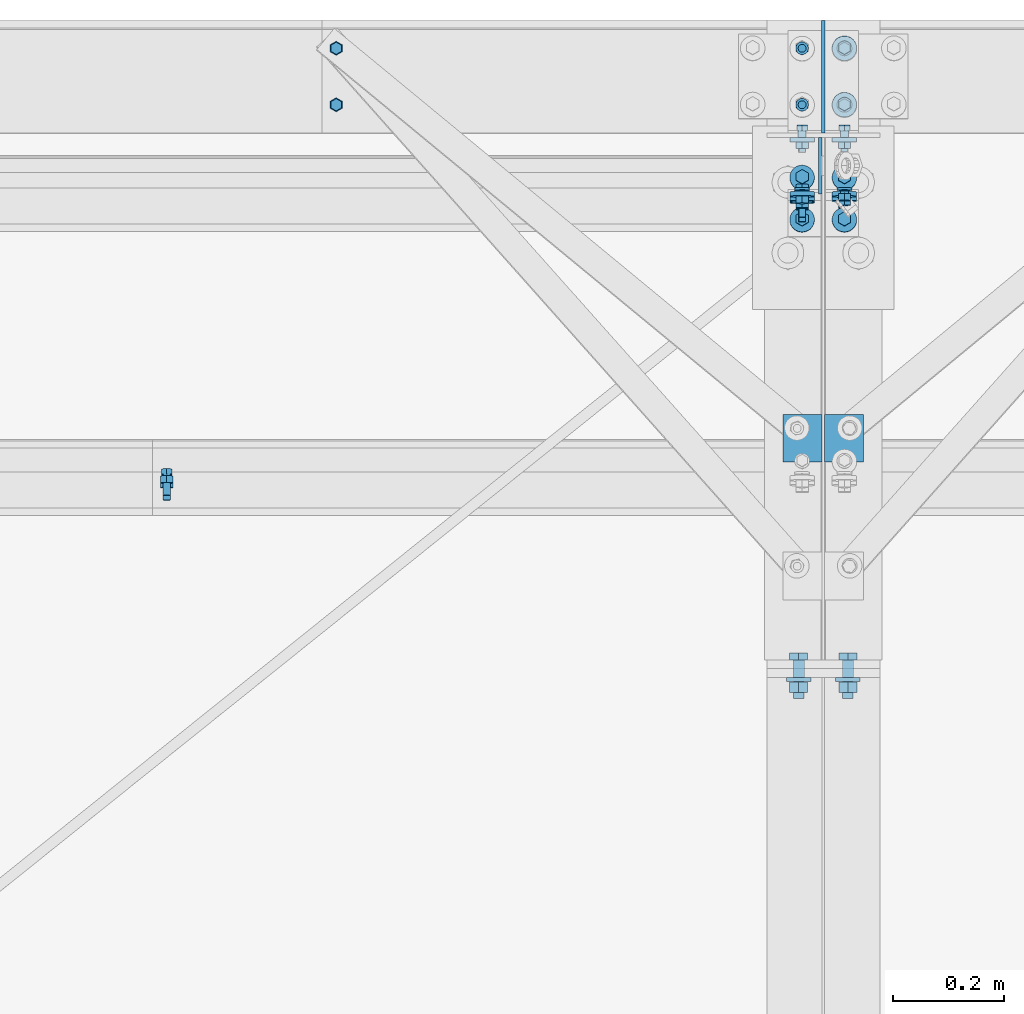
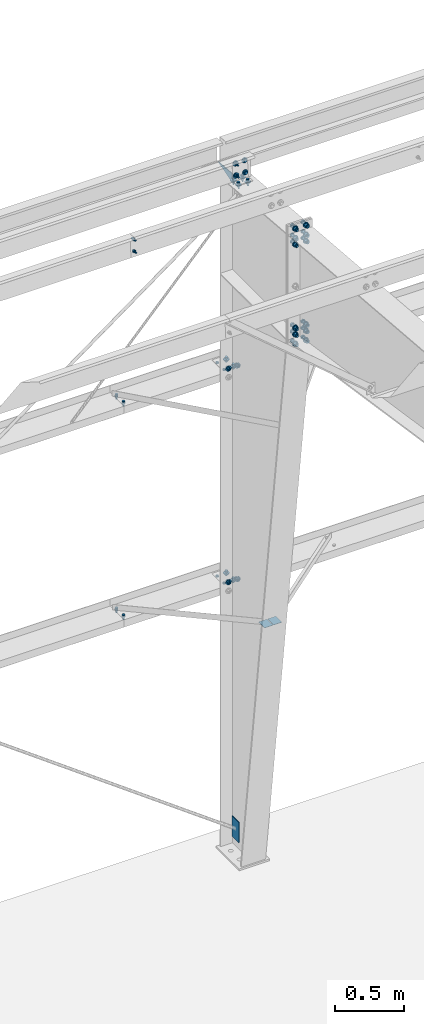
# One storey, part 114 of 185: 17 mechanical fasteners, 4 discrete accessories, 8 elements without a shape of their own.
"""IFC2X3 building model written with IfcOpenShell, lengths in millimetres."""

from ifc_helpers import new_model, si_unit, frame, origin_with_axes, origin_2d_with_axis, place, context, subcontext, project, spatial, polyline, rectangle, circle, outline, extrude, source, transform, mapped, material, type_object, element, aggregate, save


model = new_model("IFC2X3")

# Units and contexts
model_context = context("Model", 3, precision=1e-05, world=origin_with_axes())
body_context = subcontext(model_context, "Body", "Model", "MODEL_VIEW")
ifc_project = project(units=[si_unit("LENGTHUNIT", "METRE", prefix="MILLI"), si_unit("AREAUNIT", "SQUARE_METRE"), si_unit("VOLUMEUNIT", "CUBIC_METRE"), si_unit("MASSUNIT", "GRAM", prefix="KILO"), si_unit("TIMEUNIT", "SECOND"), si_unit("PLANEANGLEUNIT", "RADIAN"), si_unit("SOLIDANGLEUNIT", "STERADIAN"), si_unit("THERMODYNAMICTEMPERATUREUNIT", "DEGREE_CELSIUS"), si_unit("LUMINOUSINTENSITYUNIT", "LUMEN")], contexts=[model_context])

# Site, building, storey
site_placement = place(None, origin_with_axes())
site = spatial("IfcSite", under=ifc_project, at=site_placement, Name="Undefined", CompositionType="ELEMENT")
building_placement = place(site_placement, origin_with_axes())
building = spatial("IfcBuilding", under=site, at=building_placement, Name="Undefined", CompositionType="ELEMENT")
storey_placement = place(building_placement, origin_with_axes())
storey = spatial("IfcBuildingStorey", under=building, at=storey_placement, Name="Undefined", CompositionType="ELEMENT", Elevation=0.0)

# Assembly, mechanical fasteners
assembly_1_placement = place(storey_placement, origin_with_axes())
assembly_1 = element("IfcElementAssembly", 1, at=assembly_1_placement, inside=storey, Name="Steel Assembly", AssemblyPlace="NOTDEFINED", PredefinedType="RIGID_FRAME")
ifc_material_1 = material(Name="Undefined")
discrete_accessory_type_1 = type_object("IfcDiscreteAccessoryType", Name="Bolt assembly")
shared_shape_1 = source(origin_with_axes(), body_context, "Body", "SweptSolid", [
    extrude(circle(Radius=7.14374971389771, at=origin_2d_with_axis()), frame((0.0, -1.59000001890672, 0.0), z_axis=(0.0, 1.0, 0.0), x_axis=(1.0, 0.0, 0.0)), (0.0, 0.0, 1.0), 3.3),
    extrude(circle(Radius=13.4937496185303, at=origin_2d_with_axis()), frame((0.0, -5.5587500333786, 0.0), z_axis=(0.0, 1.0, 0.0), x_axis=(1.0, 0.0, 0.0)), (0.0, 0.0, 1.0), 4.0),
    extrude(circle(Radius=22.2250003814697, at=origin_2d_with_axis()), frame((0.0, 1.5900000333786, 0.0), z_axis=(0.0, 1.0, 0.0), x_axis=(1.0, 0.0, 0.0)), (0.0, 0.0, 1.0), 7.9),
    extrude(outline(polyline([(12.8316099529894, 0.0), (6.4158049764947, 11.1125001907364), (-6.4158049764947, 11.1125001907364), (-12.8316099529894, 0.0), (-6.4158049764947, -11.1125001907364), (6.4158049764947, -11.1125001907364), (12.8316099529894, 0.0)])), frame((0.0, 9.5275000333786, 0.0), z_axis=(0.0, 1.0, 0.0), x_axis=(1.0, 0.0, 0.0)), (0.0, 0.0, 1.0), 12.3),
])
mechanical_fastener_1_placement = place(assembly_1_placement, frame((37680.9, 31696.1295150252, 6070.67979008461), z_axis=(-1.0, 0.0, 0.0), x_axis=(0.0, -0.0830454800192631, -0.996545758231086)))
mechanical_fastener_1 = element("IfcMechanicalFastener", 2, at=mechanical_fastener_1_placement, type_object=discrete_accessory_type_1, material=ifc_material_1, Name="Bolt assembly", NominalDiameter=12.6999998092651, NominalLength=38.0999984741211, context=body_context, shape_type="MappedRepresentation", body=[
    mapped(shared_shape_1, transform((0.0, 0.0, 0.0))),
    mapped(shared_shape_1, transform((101.599998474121, 0.0, 0.0))),
])
mechanical_fastener_2_placement = place(assembly_1_placement, frame((37757.1, 31696.1295150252, 6070.67979008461), z_axis=(-1.0, 0.0, 0.0), x_axis=(0.0, -0.0830454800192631, -0.996545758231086)))
mechanical_fastener_2 = element("IfcMechanicalFastener", 3, at=mechanical_fastener_2_placement, type_object=discrete_accessory_type_1, material=ifc_material_1, Name="Bolt assembly", NominalDiameter=12.6999998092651, NominalLength=38.0999984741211, context=body_context, shape_type="MappedRepresentation", body=[
    mapped(shared_shape_1, transform((0.0, 0.0, 0.0))),
    mapped(shared_shape_1, transform((101.599998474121, 0.0, 0.0))),
])

# Assembly, discrete accessories
assembly_2_placement = place(storey_placement, origin_with_axes())
assembly_2 = element("IfcElementAssembly", 4, at=assembly_2_placement, inside=storey, Name="Steel Assembly", AssemblyPlace="NOTDEFINED", PredefinedType="RIGID_FRAME")
ifc_material_2 = material(Name="STEEL/55")
discrete_accessory_type_2 = type_object("IfcDiscreteAccessoryType", Name="FLANGE BRACE FLIP")
discrete_accessory_1_placement = place(assembly_2_placement, frame((37721.38125, 31251.9277679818, 2284.292), z_axis=(0.0, 1.0, 0.0), x_axis=(1.0, 0.0, 0.0)))
discrete_accessory_1 = element("IfcDiscreteAccessory", 5, at=discrete_accessory_1_placement, type_object=discrete_accessory_type_2, material=ifc_material_2, Name="FLANGE BRACE FLIP", ObjectType="PL1/8\"X2 3/4\"", context=body_context, shape_type="SweptSolid", body=[
    extrude(rectangle(XDim=3.416, YDim=85.725, at=origin_2d_with_axis()), frame((69.8499999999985, 0.0, 0.0), z_axis=(-1.0, 0.0, 0.0), x_axis=(0.0, -1.0, 0.0)), (0.0, 0.0, 1.0), 69.8),
])
discrete_accessory_2_placement = place(assembly_2_placement, frame((37716.61875, 31251.9277679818, 2284.292), z_axis=(0.0, 1.0, 0.0), x_axis=(-1.0, 0.0, 0.0)))
discrete_accessory_2 = element("IfcDiscreteAccessory", 6, at=discrete_accessory_2_placement, type_object=discrete_accessory_type_2, material=ifc_material_2, Name="FLANGE BRACE FLIP", ObjectType="PL1/8\"X2 3/4\"", context=body_context, shape_type="SweptSolid", body=[
    extrude(rectangle(XDim=3.416, YDim=85.725, at=origin_2d_with_axis()), frame((69.8499999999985, 0.0, 0.0), z_axis=(-1.0, 0.0, 0.0), x_axis=(0.0, -1.0, 0.0)), (0.0, 0.0, 1.0), 69.8),
])

# Assembly, mechanical fastener
assembly_3_placement = place(storey_placement, origin_with_axes())
assembly_3 = element("IfcElementAssembly", 7, at=assembly_3_placement, inside=storey, Name="Steel Assembly", AssemblyPlace="NOTDEFINED", PredefinedType="RIGID_FRAME")
shared_shape_2 = source(origin_with_axes(), body_context, "Body", "SweptSolid", [
    extrude(circle(Radius=7.14374971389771, at=origin_2d_with_axis()), frame((0.0, -0.1, 0.0), z_axis=(0.0, 1.0, 0.0), x_axis=(1.0, 0.0, 0.0)), (0.0, 0.0, 1.0), 8.0),
    extrude(circle(Radius=7.14374971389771, at=origin_2d_with_axis()), frame((0.0, -4.66250000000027, 0.0), z_axis=(0.0, 1.0, 0.0), x_axis=(1.0, 0.0, 0.0)), (0.0, 0.0, 1.0), 4.8),
    extrude(outline(polyline([(10.9985221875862, 0.0), (5.4992610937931, 9.52499961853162), (-5.4992610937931, 9.52499961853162), (-10.9985221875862, 0.0), (-5.4992610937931, -9.52499961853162), (5.4992610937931, -9.52499961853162), (10.9985221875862, 0.0)])), frame((0.0, -14.2874996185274, 0.0), z_axis=(0.0, 1.0, 0.0), x_axis=(1.0, 0.0, 0.0)), (0.0, 0.0, 1.0), 9.5),
    extrude(circle(Radius=6.34999990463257, at=origin_2d_with_axis()), frame((0.0, -4.76250000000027, 0.0), z_axis=(0.0, 1.0, 0.0), x_axis=(1.0, 0.0, 0.0)), (0.0, 0.0, 1.0), 38.1),
    extrude(circle(Radius=22.2250003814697, at=origin_2d_with_axis()), frame((0.0, 7.87399999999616, 0.0), z_axis=(0.0, 1.0, 0.0), x_axis=(1.0, 0.0, 0.0)), (0.0, 0.0, 1.0), 7.9),
    extrude(outline(polyline([(12.8316099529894, 0.0), (6.4158049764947, 11.1125001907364), (-6.4158049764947, 11.1125001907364), (-12.8316099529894, 0.0), (-6.4158049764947, -11.1125001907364), (6.4158049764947, -11.1125001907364), (12.8316099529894, 0.0)])), frame((0.0, 15.8114999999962, 0.0), z_axis=(0.0, 1.0, 0.0), x_axis=(1.0, 0.0, 0.0)), (0.0, 0.0, 1.0), 12.3),
])
mechanical_fastener_3_placement = place(assembly_3_placement, frame((37719.0, 31800.8, 2324.1), z_axis=(1.0, 0.0, 0.0), x_axis=(0.0, 0.0, 1.0)))
mechanical_fastener_3 = element("IfcMechanicalFastener", 8, at=mechanical_fastener_3_placement, type_object=discrete_accessory_type_1, material=ifc_material_1, Name="Bolt assembly", NominalDiameter=12.6999998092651, NominalLength=38.0999984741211, context=body_context, shape_type="MappedRepresentation", body=[
    mapped(shared_shape_2, transform((0.0, 0.0, -38.0999984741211))),
    mapped(shared_shape_2, transform((0.0, 0.0, 38.0999984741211))),
])

assembly_4_placement = place(storey_placement, origin_with_axes())
assembly_4 = element("IfcElementAssembly", 9, at=assembly_4_placement, inside=storey, Name="Steel Assembly", AssemblyPlace="NOTDEFINED", PredefinedType="RIGID_FRAME")
mechanical_fastener_4_placement = place(assembly_4_placement, frame((37719.0, 31800.8, 4203.7), z_axis=(1.0, 0.0, 0.0), x_axis=(0.0, 0.0, 1.0)))
mechanical_fastener_4 = element("IfcMechanicalFastener", 10, at=mechanical_fastener_4_placement, type_object=discrete_accessory_type_1, material=ifc_material_1, Name="Bolt assembly", NominalDiameter=12.6999998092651, NominalLength=38.0999984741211, context=body_context, shape_type="MappedRepresentation", body=[
    mapped(shared_shape_2, transform((0.0, 0.0, -38.0999984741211))),
    mapped(shared_shape_2, transform((0.0, 0.0, 38.0999984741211))),
])

assembly_5_placement = place(storey_placement, origin_with_axes())
assembly_5 = element("IfcElementAssembly", 11, at=assembly_5_placement, inside=storey, Name="Steel Assembly", AssemblyPlace="NOTDEFINED", PredefinedType="RIGID_FRAME")
ifc_material_3 = material(Name="7990")
shared_shape_3 = source(origin_with_axes(), body_context, "Body", "SweptSolid", [
    extrude(circle(Radius=7.14374971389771, at=origin_2d_with_axis()), frame((0.0, -1.69000003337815, 0.0), z_axis=(0.0, 1.0, 0.0), x_axis=(1.0, 0.0, 0.0)), (0.0, 0.0, 1.0), 3.3),
    extrude(circle(Radius=7.14374971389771, at=origin_2d_with_axis()), frame((0.0, -1.4900000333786, 0.0), z_axis=(0.0, 1.0, 0.0), x_axis=(1.0, 0.0, 0.0)), (0.0, 0.0, 1.0), 3.2),
    extrude(circle(Radius=11.4299998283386, at=origin_2d_with_axis()), frame((0.0, 1.5900000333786, 0.0), z_axis=(0.0, 1.0, 0.0), x_axis=(1.0, 0.0, 0.0)), (0.0, 0.0, 1.0), 4.2),
    extrude(outline(polyline([(12.171698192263, 0.0), (6.08584909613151, 10.5409998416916), (-6.08584909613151, 10.5409998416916), (-12.171698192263, 0.0), (-6.08584909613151, -10.5409998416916), (6.08584909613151, -10.5409998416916), (12.171698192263, 0.0)])), frame((0.0, 5.78099997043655, 0.0), z_axis=(0.0, 1.0, 0.0), x_axis=(1.0, 0.0, 0.0)), (0.0, 0.0, 1.0), 8.4),
])
mechanical_fastener_5_placement = place(assembly_5_placement, frame((37680.9, 31953.2, 2286.0), z_axis=(1.0, 0.0, 0.0), x_axis=(0.0, -1.0, 0.0)))
mechanical_fastener_5 = element("IfcMechanicalFastener", 12, at=mechanical_fastener_5_placement, type_object=discrete_accessory_type_1, material=ifc_material_3, Name="Bolt assembly", NominalDiameter=12.6999998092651, NominalLength=38.0999984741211, context=body_context, shape_type="MappedRepresentation", body=[
    mapped(shared_shape_3, transform((0.0, 0.0, 0.0))),
    mapped(shared_shape_3, transform((101.599998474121, 0.0, 0.0))),
])

# Mechanical fastener
shared_shape_4 = source(origin_with_axes(), body_context, "Body", "SweptSolid", [
    extrude(circle(Radius=7.14374971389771, at=origin_2d_with_axis()), frame((0.0, -1.59000001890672, 0.0), z_axis=(0.0, 1.0, 0.0), x_axis=(1.0, 0.0, 0.0)), (0.0, 0.0, 1.0), 3.2),
    extrude(circle(Radius=7.14374971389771, at=origin_2d_with_axis()), frame((0.0, -4.66250000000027, 0.0), z_axis=(0.0, 1.0, 0.0), x_axis=(1.0, 0.0, 0.0)), (0.0, 0.0, 1.0), 4.8),
    extrude(circle(Radius=7.14374971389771, at=origin_2d_with_axis()), frame((0.0, -1.69000003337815, 0.0), z_axis=(0.0, 1.0, 0.0), x_axis=(1.0, 0.0, 0.0)), (0.0, 0.0, 1.0), 3.3),
    extrude(outline(polyline([(10.9985221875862, 0.0), (5.4992610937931, 9.52499961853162), (-5.4992610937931, 9.52499961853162), (-10.9985221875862, 0.0), (-5.4992610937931, -9.52499961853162), (5.4992610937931, -9.52499961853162), (10.9985221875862, 0.0)])), frame((0.0, -18.2562496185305, 0.0), z_axis=(0.0, 1.0, 0.0), x_axis=(1.0, 0.0, 0.0)), (0.0, 0.0, 1.0), 9.5),
    extrude(circle(Radius=6.34999990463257, at=origin_2d_with_axis()), frame((0.0, -8.73125000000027, 0.0), z_axis=(0.0, 1.0, 0.0), x_axis=(1.0, 0.0, 0.0)), (0.0, 0.0, 1.0), 38.1),
    extrude(circle(Radius=13.4937496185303, at=origin_2d_with_axis()), frame((0.0, -8.73125000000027, 0.0), z_axis=(0.0, 1.0, 0.0), x_axis=(1.0, 0.0, 0.0)), (0.0, 0.0, 1.0), 4.0),
    extrude(circle(Radius=22.2250003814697, at=origin_2d_with_axis()), frame((0.0, 1.5900000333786, 0.0), z_axis=(0.0, 1.0, 0.0), x_axis=(1.0, 0.0, 0.0)), (0.0, 0.0, 1.0), 7.9),
    extrude(outline(polyline([(12.8316099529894, 0.0), (6.4158049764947, 11.1125001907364), (-6.4158049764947, 11.1125001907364), (-12.8316099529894, 0.0), (-6.4158049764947, -11.1125001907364), (6.4158049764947, -11.1125001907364), (12.8316099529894, 0.0)])), frame((0.0, 9.5275000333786, 0.0), z_axis=(0.0, 1.0, 0.0), x_axis=(1.0, 0.0, 0.0)), (0.0, 0.0, 1.0), 12.3),
])
mechanical_fastener_6_placement = place(assembly_3_placement, frame((37757.1, 31953.2, 2286.0), z_axis=(1.0, 0.0, 0.0), x_axis=(0.0, -1.0, 0.0)))
mechanical_fastener_6 = element("IfcMechanicalFastener", 13, at=mechanical_fastener_6_placement, type_object=discrete_accessory_type_1, material=ifc_material_1, Name="Bolt assembly", NominalDiameter=12.6999998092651, NominalLength=38.0999984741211, context=body_context, shape_type="MappedRepresentation", body=[
    mapped(shared_shape_4, transform((0.0, 0.0, 0.0))),
    mapped(shared_shape_4, transform((101.599998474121, 0.0, 0.0))),
])

aggregate(assembly_3, [mechanical_fastener_3, mechanical_fastener_6])

shared_shape_5 = source(origin_with_axes(), body_context, "Body", "SweptSolid", [
    extrude(circle(Radius=7.14374971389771, at=origin_2d_with_axis()), frame((0.0, -1.69000003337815, 0.0), z_axis=(0.0, 1.0, 0.0), x_axis=(1.0, 0.0, 0.0)), (0.0, 0.0, 1.0), 3.3),
    extrude(circle(Radius=7.14374971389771, at=origin_2d_with_axis()), frame((0.0, -1.4900000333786, 0.0), z_axis=(0.0, 1.0, 0.0), x_axis=(1.0, 0.0, 0.0)), (0.0, 0.0, 1.0), 3.2),
    extrude(outline(polyline([(10.9985221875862, 0.0), (5.4992610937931, 9.52499961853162), (-5.4992610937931, 9.52499961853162), (-10.9985221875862, 0.0), (-5.4992610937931, -9.52499961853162), (5.4992610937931, -9.52499961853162), (10.9985221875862, 0.0)])), frame((0.0, -11.1149996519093, 0.0), z_axis=(0.0, 1.0, 0.0), x_axis=(1.0, 0.0, 0.0)), (0.0, 0.0, 1.0), 9.5),
    extrude(circle(Radius=6.34999990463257, at=origin_2d_with_axis()), frame((0.0, -1.59000001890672, 0.0), z_axis=(0.0, 1.0, 0.0), x_axis=(1.0, 0.0, 0.0)), (0.0, 0.0, 1.0), 38.1),
    extrude(outline(polyline([(12.8316099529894, 0.0), (6.4158049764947, 11.1125001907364), (-6.4158049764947, 11.1125001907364), (-12.8316099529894, 0.0), (-6.4158049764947, -11.1125001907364), (6.4158049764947, -11.1125001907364), (12.8316099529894, 0.0)])), frame((0.0, 1.5900000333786, 0.0), z_axis=(0.0, 1.0, 0.0), x_axis=(1.0, 0.0, 0.0)), (0.0, 0.0, 1.0), 12.3),
])
mechanical_fastener_7_placement = place(assembly_5_placement, frame((36842.7, 31953.2, 2286.0), z_axis=(1.0, 0.0, 0.0), x_axis=(0.0, -1.0, 0.0)))
mechanical_fastener_7 = element("IfcMechanicalFastener", 14, at=mechanical_fastener_7_placement, type_object=discrete_accessory_type_1, material=ifc_material_1, Name="Bolt assembly", NominalDiameter=12.6999998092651, NominalLength=38.0999984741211, context=body_context, shape_type="MappedRepresentation", body=[
    mapped(shared_shape_5, transform((0.0, 0.0, 0.0))),
    mapped(shared_shape_5, transform((101.599998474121, 0.0, 0.0))),
])

aggregate(assembly_5, [mechanical_fastener_5, mechanical_fastener_7])

# Discrete accessory
discrete_accessory_type_3 = type_object("IfcDiscreteAccessoryType", Name="BACKUP PL SINGLE SLOT")
discrete_accessory_3_placement = place(assembly_2_placement, frame((37713.4437512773, 31742.1288478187, 256.370463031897), z_axis=(-0.000896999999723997, -0.999999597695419, 0.0), x_axis=(0.0, 0.0, -1.0)))
discrete_accessory_3 = element("IfcDiscreteAccessory", 15, at=discrete_accessory_3_placement, type_object=discrete_accessory_type_3, material=ifc_material_2, Name="BACKUP PL SINGLE SLOT", ObjectType="FL1/4\"X4\"", context=body_context, shape_type="SweptSolid", body=[
    extrude(rectangle(XDim=6.35, YDim=101.6, at=origin_2d_with_axis()), frame((177.800000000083, 0.0, 0.0), z_axis=(-1.0, 0.0, 0.0), x_axis=(0.0, -1.0, 0.0)), (0.0, 0.0, 1.0), 177.8),
])

# Assembly, mechanical fasteners
assembly_6_placement = place(storey_placement, origin_with_axes())
assembly_6 = element("IfcElementAssembly", 16, at=assembly_6_placement, inside=storey, Name="Steel Assembly", AssemblyPlace="NOTDEFINED", PredefinedType="RIGID_FRAME")
shared_shape_6 = source(origin_with_axes(), body_context, "Body", "SweptSolid", [
    extrude(circle(Radius=7.14374971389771, at=origin_2d_with_axis()), frame((0.0, 0.0, 0.0), z_axis=(0.0, 1.0, 0.0), x_axis=(1.0, 0.0, 0.0)), (0.0, 0.0, 1.0), 4.9),
    extrude(outline(polyline([(12.8316099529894, 0.0), (6.4158049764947, 11.1125001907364), (-6.4158049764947, 11.1125001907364), (-12.8316099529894, 0.0), (-6.4158049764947, -11.1125001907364), (6.4158049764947, -11.1125001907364), (12.8316099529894, 0.0)])), frame((0.0, 4.76000382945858, 0.0), z_axis=(0.0, 1.0, 0.0), x_axis=(1.0, 0.0, 0.0)), (0.0, 0.0, 1.0), 12.3),
])
mechanical_fastener_8_placement = place(assembly_6_placement, frame((37757.1, 31696.1295150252, 6070.67979008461), z_axis=(-1.0, 0.0, 0.0), x_axis=(0.0, -0.0830454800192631, -0.996545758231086)))
mechanical_fastener_8 = element("IfcMechanicalFastener", 17, at=mechanical_fastener_8_placement, type_object=discrete_accessory_type_1, material=ifc_material_1, Name="Bolt assembly", NominalDiameter=12.6999998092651, NominalLength=50.7999992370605, context=body_context, shape_type="MappedRepresentation", body=[
    mapped(shared_shape_6, transform((0.0, 0.0, 0.0))),
    mapped(shared_shape_6, transform((101.599998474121, 0.0, 0.0))),
])
shared_shape_7 = source(origin_with_axes(), body_context, "Body", "SweptSolid", [
    extrude(circle(Radius=7.14374971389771, at=origin_2d_with_axis()), frame((0.0, 0.0, 0.0), z_axis=(0.0, 1.0, 0.0), x_axis=(1.0, 0.0, 0.0)), (0.0, 0.0, 1.0), 4.9),
    extrude(outline(polyline([(12.8316099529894, 0.0), (6.4158049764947, 11.1125001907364), (-6.4158049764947, 11.1125001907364), (-12.8316099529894, 0.0), (-6.4158049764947, -11.1125001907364), (6.4158049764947, -11.1125001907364), (12.8316099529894, 0.0)])), frame((0.0, -11.9062498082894, 0.0), z_axis=(0.0, 1.0, 0.0), x_axis=(1.0, 0.0, 0.0)), (0.0, 0.0, 1.0), 7.9),
    extrude(circle(Radius=6.34999990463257, at=origin_2d_with_axis()), frame((0.0, -3.96874999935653, 0.0), z_axis=(0.0, 1.0, 0.0), x_axis=(1.0, 0.0, 0.0)), (0.0, 0.0, 1.0), 50.8),
    extrude(circle(Radius=13.4937496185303, at=origin_2d_with_axis()), frame((0.0, -3.96874999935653, 0.0), z_axis=(0.0, 1.0, 0.0), x_axis=(1.0, 0.0, 0.0)), (0.0, 0.0, 1.0), 4.0),
    extrude(circle(Radius=22.2250003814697, at=origin_2d_with_axis()), frame((0.0, 4.76000382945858, 0.0), z_axis=(0.0, 1.0, 0.0), x_axis=(1.0, 0.0, 0.0)), (0.0, 0.0, 1.0), 7.9),
    extrude(outline(polyline([(12.8316099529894, 0.0), (6.4158049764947, 11.1125001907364), (-6.4158049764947, 11.1125001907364), (-12.8316099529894, 0.0), (-6.4158049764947, -11.1125001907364), (6.4158049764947, -11.1125001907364), (12.8316099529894, 0.0)])), frame((0.0, 12.6975038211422, 0.0), z_axis=(0.0, 1.0, 0.0), x_axis=(1.0, 0.0, 0.0)), (0.0, 0.0, 1.0), 12.3),
])
mechanical_fastener_9_placement = place(assembly_6_placement, frame((37680.9, 31696.1295150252, 6070.67979008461), z_axis=(-1.0, 0.0, 0.0), x_axis=(0.0, -0.0830454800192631, -0.996545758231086)))
mechanical_fastener_9 = element("IfcMechanicalFastener", 18, at=mechanical_fastener_9_placement, type_object=discrete_accessory_type_1, material=ifc_material_1, Name="Bolt assembly", NominalDiameter=12.6999998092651, NominalLength=50.7999992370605, context=body_context, shape_type="MappedRepresentation", body=[
    mapped(shared_shape_7, transform((0.0, 0.0, 0.0))),
    mapped(shared_shape_7, transform((101.599998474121, 0.0, 0.0))),
])
aggregate(assembly_6, [mechanical_fastener_8, mechanical_fastener_9])

# Assembly, mechanical fastener
assembly_7_placement = place(storey_placement, origin_with_axes())
assembly_7 = element("IfcElementAssembly", 19, at=assembly_7_placement, inside=storey, Name="Steel Assembly", AssemblyPlace="NOTDEFINED", PredefinedType="RIGID_FRAME")
shared_shape_8 = source(origin_with_axes(), body_context, "Body", "SweptSolid", [
    extrude(circle(Radius=7.14374971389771, at=origin_2d_with_axis()), frame((0.0, -1.4900000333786, 0.0), z_axis=(0.0, 1.0, 0.0), x_axis=(1.0, 0.0, 0.0)), (0.0, 0.0, 1.0), 3.2),
    extrude(circle(Radius=7.14374971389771, at=origin_2d_with_axis()), frame((0.0, -1.4900000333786, 0.0), z_axis=(0.0, 1.0, 0.0), x_axis=(1.0, 0.0, 0.0)), (0.0, 0.0, 1.0), 3.2),
    extrude(outline(polyline([(10.9985221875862, 0.0), (5.4992610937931, 9.52499961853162), (-5.4992610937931, 9.52499961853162), (-10.9985221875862, 0.0), (-5.4992610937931, -9.52499961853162), (5.4992610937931, -9.52499961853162), (10.9985221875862, 0.0)])), frame((0.0, -11.1149996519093, 0.0), z_axis=(0.0, 1.0, 0.0), x_axis=(1.0, 0.0, 0.0)), (0.0, 0.0, 1.0), 9.5),
    extrude(circle(Radius=6.34999990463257, at=origin_2d_with_axis()), frame((0.0, -1.59000001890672, 0.0), z_axis=(0.0, 1.0, 0.0), x_axis=(1.0, 0.0, 0.0)), (0.0, 0.0, 1.0), 38.1),
    extrude(outline(polyline([(12.8316099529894, 0.0), (6.4158049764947, 11.1125001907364), (-6.4158049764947, 11.1125001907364), (-12.8316099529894, 0.0), (-6.4158049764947, -11.1125001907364), (6.4158049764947, -11.1125001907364), (12.8316099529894, 0.0)])), frame((0.0, 1.5900000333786, 0.0), z_axis=(0.0, 1.0, 0.0), x_axis=(1.0, 0.0, 0.0)), (0.0, 0.0, 1.0), 12.3),
])
mechanical_fastener_10_placement = place(assembly_7_placement, frame((36842.7, 31953.2, 4165.6), z_axis=(1.0, 0.0, 0.0), x_axis=(0.0, -1.0, 0.0)))
mechanical_fastener_10 = element("IfcMechanicalFastener", 20, at=mechanical_fastener_10_placement, type_object=discrete_accessory_type_1, material=ifc_material_1, Name="Bolt assembly", NominalDiameter=12.6999998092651, NominalLength=38.0999984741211, context=body_context, shape_type="MappedRepresentation", body=[
    mapped(shared_shape_8, transform((0.0, 0.0, 0.0))),
    mapped(shared_shape_8, transform((101.599998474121, 0.0, 0.0))),
])

assembly_8_placement = place(storey_placement, origin_with_axes())
assembly_8 = element("IfcElementAssembly", 21, at=assembly_8_placement, inside=storey, Name="Steel Assembly", AssemblyPlace="NOTDEFINED", PredefinedType="RIGID_FRAME")
mechanical_fastener_11_placement = place(assembly_8_placement, frame((36537.9, 31185.1382206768, 6113.2623980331), z_axis=(-1.0, 0.0, 0.0), x_axis=(0.0, -0.0830454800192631, -0.996545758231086)))
mechanical_fastener_11 = element("IfcMechanicalFastener", 22, at=mechanical_fastener_11_placement, type_object=discrete_accessory_type_1, material=ifc_material_1, Name="Bolt assembly", NominalDiameter=12.6999998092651, NominalLength=38.0999984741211, context=body_context, shape_type="MappedRepresentation", body=[
    mapped(shared_shape_8, transform((0.0, 0.0, 0.0))),
    mapped(shared_shape_8, transform((101.599998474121, 0.0, 0.0))),
])
aggregate(assembly_8, [mechanical_fastener_11])

# Discrete accessory
discrete_accessory_type_4 = type_object("IfcDiscreteAccessoryType", Name="Gusset")
discrete_accessory_4_placement = place(assembly_2_placement, frame((37719.0, 31800.8, 5901.05124136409), z_axis=(-1.0, 0.0, 0.0), x_axis=(0.0, 0.996545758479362, -0.0830454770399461)))
discrete_accessory_4 = element("IfcDiscreteAccessory", 23, at=discrete_accessory_4_placement, type_object=discrete_accessory_type_4, material=ifc_material_2, Name="Gusset", ObjectType="1/4\"X2 7/8\"", context=body_context, shape_type="SweptSolid", body=[
    extrude(outline(polyline([(0.0, 0.0), (203.427200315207, -7.38509697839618e-10), (6.32806539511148, 75.9367904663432), (0.0, 0.0)])), frame((0.0, -9.09494701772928e-13, -3.2), z_axis=(0.0, 0.0, 1.0), x_axis=(1.0, 0.0, 0.0)), (0.0, 0.0, 1.0), 6.4),
])

# Mechanical fastener
shared_shape_9 = source(origin_with_axes(), body_context, "Body", "SweptSolid", [
    extrude(circle(Radius=10.3187494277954, at=origin_2d_with_axis()), frame((0.0, -0.1, 0.0), z_axis=(0.0, 1.0, 0.0), x_axis=(1.0, 0.0, 0.0)), (0.0, 0.0, 1.0), 15.8),
    extrude(circle(Radius=10.3187494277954, at=origin_2d_with_axis()), frame((0.0, -15.775, 0.0), z_axis=(0.0, 1.0, 0.0), x_axis=(1.0, 0.0, 0.0)), (0.0, 0.0, 1.0), 15.9),
    extrude(outline(polyline([(18.3308710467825, 0.0), (9.16543552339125, 15.8750000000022), (-9.16543552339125, 15.8750000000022), (-18.3308710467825, 0.0), (-9.16543552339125, -15.8750000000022), (9.16543552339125, -15.8750000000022), (18.3308710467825, 0.0)])), frame((0.0, -27.78125, 0.0), z_axis=(0.0, 1.0, 0.0), x_axis=(1.0, 0.0, 0.0)), (0.0, 0.0, 1.0), 11.9),
    extrude(circle(Radius=9.52499961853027, at=origin_2d_with_axis()), frame((0.0, -15.8750000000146, 0.0), z_axis=(0.0, 1.0, 0.0), x_axis=(1.0, 0.0, 0.0)), (0.0, 0.0, 1.0), 69.8),
    extrude(circle(Radius=22.2250003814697, at=origin_2d_with_axis()), frame((0.0, 15.7480000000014, 0.0), z_axis=(0.0, 1.0, 0.0), x_axis=(1.0, 0.0, 0.0)), (0.0, 0.0, 1.0), 7.9),
    extrude(outline(polyline([(18.3308710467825, 0.0), (9.16543552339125, 15.8750000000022), (-9.16543552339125, 15.8750000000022), (-18.3308710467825, 0.0), (-9.16543552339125, -15.8750000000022), (9.16543552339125, -15.8750000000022), (18.3308710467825, 0.0)])), frame((0.0, 23.6855000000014, 0.0), z_axis=(0.0, 1.0, 0.0), x_axis=(1.0, 0.0, 0.0)), (0.0, 0.0, 1.0), 19.0),
])
mechanical_fastener_12_placement = place(assembly_2_placement, frame((37719.0, 30837.251, 5016.27948446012), z_axis=(1.0, 0.0, 0.0), x_axis=(0.0, 0.0, 1.0)))
mechanical_fastener_12 = element("IfcMechanicalFastener", 24, at=mechanical_fastener_12_placement, type_object=discrete_accessory_type_1, material=ifc_material_1, Name="Bolt assembly", NominalDiameter=19.0499992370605, NominalLength=69.8499984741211, context=body_context, shape_type="MappedRepresentation", body=[
    mapped(shared_shape_9, transform((0.0, 0.0, -44.4500007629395))),
    mapped(shared_shape_9, transform((82.5500030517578, 0.0, -44.4500007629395))),
    mapped(shared_shape_9, transform((139.699996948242, 0.0, -44.4500007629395))),
    mapped(shared_shape_9, transform((0.0, 0.0, 44.4500007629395))),
    mapped(shared_shape_9, transform((82.5500030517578, 0.0, 44.4500007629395))),
    mapped(shared_shape_9, transform((139.699996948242, 0.0, 44.4500007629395))),
])

mechanical_fastener_13_placement = place(assembly_2_placement, frame((37719.0, 30837.251, 6029.10448751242), z_axis=(-1.0, 0.0, 0.0), x_axis=(0.0, 0.0, -1.0)))
mechanical_fastener_13 = element("IfcMechanicalFastener", 25, at=mechanical_fastener_13_placement, type_object=discrete_accessory_type_1, material=ifc_material_1, Name="Bolt assembly", NominalDiameter=19.0499992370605, NominalLength=69.8499984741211, context=body_context, shape_type="MappedRepresentation", body=[
    mapped(shared_shape_9, transform((0.0, 0.0, -44.4500007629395))),
    mapped(shared_shape_9, transform((82.5500030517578, 0.0, -44.4500007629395))),
    mapped(shared_shape_9, transform((139.699996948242, 0.0, -44.4500007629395))),
    mapped(shared_shape_9, transform((0.0, 0.0, 44.4500007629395))),
    mapped(shared_shape_9, transform((82.5500030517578, 0.0, 44.4500007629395))),
    mapped(shared_shape_9, transform((139.699996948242, 0.0, 44.4500007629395))),
])

shared_shape_10 = source(origin_with_axes(), body_context, "Body", "SweptSolid", [
    extrude(circle(Radius=7.14374971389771, at=origin_2d_with_axis()), frame((0.0, -1.4900000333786, 0.0), z_axis=(0.0, 1.0, 0.0), x_axis=(1.0, 0.0, 0.0)), (0.0, 0.0, 1.0), 3.2),
    extrude(circle(Radius=7.14374971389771, at=origin_2d_with_axis()), frame((0.0, -1.4900000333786, 0.0), z_axis=(0.0, 1.0, 0.0), x_axis=(1.0, 0.0, 0.0)), (0.0, 0.0, 1.0), 3.2),
    extrude(circle(Radius=11.4299998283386, at=origin_2d_with_axis()), frame((0.0, 1.5900000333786, 0.0), z_axis=(0.0, 1.0, 0.0), x_axis=(1.0, 0.0, 0.0)), (0.0, 0.0, 1.0), 4.2),
    extrude(outline(polyline([(12.171698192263, 0.0), (6.08584909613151, 10.5409998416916), (-6.08584909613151, 10.5409998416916), (-12.171698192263, 0.0), (-6.08584909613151, -10.5409998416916), (6.08584909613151, -10.5409998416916), (12.171698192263, 0.0)])), frame((0.0, 5.78099997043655, 0.0), z_axis=(0.0, 1.0, 0.0), x_axis=(1.0, 0.0, 0.0)), (0.0, 0.0, 1.0), 8.4),
])
mechanical_fastener_14_placement = place(assembly_7_placement, frame((37680.9, 31953.2, 4165.6), z_axis=(1.0, 0.0, 0.0), x_axis=(0.0, -1.0, 0.0)))
mechanical_fastener_14 = element("IfcMechanicalFastener", 26, at=mechanical_fastener_14_placement, type_object=discrete_accessory_type_1, material=ifc_material_3, Name="Bolt assembly", NominalDiameter=12.6999998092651, NominalLength=38.0999984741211, context=body_context, shape_type="MappedRepresentation", body=[
    mapped(shared_shape_10, transform((0.0, 0.0, 0.0))),
    mapped(shared_shape_10, transform((101.599998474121, 0.0, 0.0))),
])

aggregate(assembly_7, [mechanical_fastener_14, mechanical_fastener_10])

shared_shape_11 = source(origin_with_axes(), body_context, "Body", "SweptSolid", [
    extrude(circle(Radius=7.14374971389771, at=origin_2d_with_axis()), frame((0.0, -1.59000001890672, 0.0), z_axis=(0.0, 1.0, 0.0), x_axis=(1.0, 0.0, 0.0)), (0.0, 0.0, 1.0), 3.2),
    extrude(circle(Radius=7.14374971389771, at=origin_2d_with_axis()), frame((0.0, -4.66250000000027, 0.0), z_axis=(0.0, 1.0, 0.0), x_axis=(1.0, 0.0, 0.0)), (0.0, 0.0, 1.0), 4.8),
    extrude(circle(Radius=7.14374971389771, at=origin_2d_with_axis()), frame((0.0, -1.59000001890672, 0.0), z_axis=(0.0, 1.0, 0.0), x_axis=(1.0, 0.0, 0.0)), (0.0, 0.0, 1.0), 3.2),
    extrude(outline(polyline([(10.9985221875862, 0.0), (5.4992610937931, 9.52499961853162), (-5.4992610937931, 9.52499961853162), (-10.9985221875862, 0.0), (-5.4992610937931, -9.52499961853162), (5.4992610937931, -9.52499961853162), (10.9985221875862, 0.0)])), frame((0.0, -18.2562496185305, 0.0), z_axis=(0.0, 1.0, 0.0), x_axis=(1.0, 0.0, 0.0)), (0.0, 0.0, 1.0), 9.5),
    extrude(circle(Radius=6.34999990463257, at=origin_2d_with_axis()), frame((0.0, -8.73125000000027, 0.0), z_axis=(0.0, 1.0, 0.0), x_axis=(1.0, 0.0, 0.0)), (0.0, 0.0, 1.0), 38.1),
    extrude(circle(Radius=13.4937496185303, at=origin_2d_with_axis()), frame((0.0, -8.73125000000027, 0.0), z_axis=(0.0, 1.0, 0.0), x_axis=(1.0, 0.0, 0.0)), (0.0, 0.0, 1.0), 4.0),
    extrude(circle(Radius=22.2250003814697, at=origin_2d_with_axis()), frame((0.0, 1.5900000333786, 0.0), z_axis=(0.0, 1.0, 0.0), x_axis=(1.0, 0.0, 0.0)), (0.0, 0.0, 1.0), 7.9),
    extrude(outline(polyline([(12.8316099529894, 0.0), (6.4158049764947, 11.1125001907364), (-6.4158049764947, 11.1125001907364), (-12.8316099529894, 0.0), (-6.4158049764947, -11.1125001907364), (6.4158049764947, -11.1125001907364), (12.8316099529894, 0.0)])), frame((0.0, 9.5275000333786, 0.0), z_axis=(0.0, 1.0, 0.0), x_axis=(1.0, 0.0, 0.0)), (0.0, 0.0, 1.0), 12.3),
])
mechanical_fastener_15_placement = place(assembly_4_placement, frame((37757.1, 31953.2, 4165.6), z_axis=(1.0, 0.0, 0.0), x_axis=(0.0, -1.0, 0.0)))
mechanical_fastener_15 = element("IfcMechanicalFastener", 27, at=mechanical_fastener_15_placement, type_object=discrete_accessory_type_1, material=ifc_material_1, Name="Bolt assembly", NominalDiameter=12.6999998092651, NominalLength=38.0999984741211, context=body_context, shape_type="MappedRepresentation", body=[
    mapped(shared_shape_11, transform((0.0, 0.0, 0.0))),
    mapped(shared_shape_11, transform((101.599998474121, 0.0, 0.0))),
])

aggregate(assembly_4, [mechanical_fastener_4, mechanical_fastener_15])

shared_shape_12 = source(origin_with_axes(), body_context, "Body", "SweptSolid", [
    extrude(circle(Radius=7.14374971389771, at=origin_2d_with_axis()), frame((0.0, -0.1, 0.0), z_axis=(0.0, 1.0, 0.0), x_axis=(1.0, 0.0, 0.0)), (0.0, 0.0, 1.0), 8.1),
    extrude(circle(Radius=7.14374971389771, at=origin_2d_with_axis()), frame((0.0, -3.08000006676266, 0.0), z_axis=(0.0, 1.0, 0.0), x_axis=(1.0, 0.0, 0.0)), (0.0, 0.0, 1.0), 3.2),
    extrude(outline(polyline([(12.8316099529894, 0.0), (6.4158049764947, 11.1125001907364), (-6.4158049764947, 11.1125001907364), (-12.8316099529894, 0.0), (-6.4158049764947, -11.1125001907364), (6.4158049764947, -11.1125001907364), (12.8316099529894, 0.0)])), frame((0.0, -11.1175003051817, 0.0), z_axis=(0.0, 1.0, 0.0), x_axis=(1.0, 0.0, 0.0)), (0.0, 0.0, 1.0), 7.9),
    extrude(circle(Radius=6.34999990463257, at=origin_2d_with_axis()), frame((0.0, -3.18000030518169, 0.0), z_axis=(0.0, 1.0, 0.0), x_axis=(1.0, 0.0, 0.0)), (0.0, 0.0, 1.0), 50.8),
    extrude(circle(Radius=22.2250003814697, at=origin_2d_with_axis()), frame((0.0, 7.95019856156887, 0.0), z_axis=(0.0, 1.0, 0.0), x_axis=(1.0, 0.0, 0.0)), (0.0, 0.0, 1.0), 7.9),
    extrude(outline(polyline([(12.8316099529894, 0.0), (6.4158049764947, 11.1125001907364), (-6.4158049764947, 11.1125001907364), (-12.8316099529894, 0.0), (-6.4158049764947, -11.1125001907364), (6.4158049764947, -11.1125001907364), (12.8316099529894, 0.0)])), frame((0.0, 15.8876985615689, 0.0), z_axis=(0.0, 1.0, 0.0), x_axis=(1.0, 0.0, 0.0)), (0.0, 0.0, 1.0), 12.3),
])
mechanical_fastener_16_placement = place(assembly_1_placement, frame((37719.0, 31721.4417772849, 5915.64218374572), z_axis=(-1.0, 0.0, 0.0), x_axis=(0.0, 0.996545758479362, -0.0830454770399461)))
mechanical_fastener_16 = element("IfcMechanicalFastener", 28, at=mechanical_fastener_16_placement, type_object=discrete_accessory_type_1, material=ifc_material_1, Name="Bolt assembly", NominalDiameter=12.6999998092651, NominalLength=50.7999992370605, context=body_context, shape_type="MappedRepresentation", body=[
    mapped(shared_shape_12, transform((0.0, 0.0, -38.0999984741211))),
    mapped(shared_shape_12, transform((0.0, 0.0, 38.0999984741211))),
])

aggregate(assembly_1, [mechanical_fastener_1, mechanical_fastener_2, mechanical_fastener_16])

shared_shape_13 = source(origin_with_axes(), body_context, "Body", "SweptSolid", [
    extrude(circle(Radius=7.14374971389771, at=origin_2d_with_axis()), frame((0.0, -4.65999985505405, 0.0), z_axis=(0.0, 1.0, 0.0), x_axis=(1.0, 0.0, 0.0)), (0.0, 0.0, 1.0), 4.8),
    extrude(circle(Radius=7.14374971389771, at=origin_2d_with_axis()), frame((0.0, -0.1, 0.0), z_axis=(0.0, 1.0, 0.0), x_axis=(1.0, 0.0, 0.0)), (0.0, 0.0, 1.0), 8.1),
    extrude(outline(polyline([(12.8316099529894, 0.0), (6.4158049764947, 11.1125001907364), (-6.4158049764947, 11.1125001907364), (-12.8316099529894, 0.0), (-6.4158049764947, -11.1125001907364), (6.4158049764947, -11.1125001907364), (12.8316099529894, 0.0)])), frame((0.0, -12.697499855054, 0.0), z_axis=(0.0, 1.0, 0.0), x_axis=(1.0, 0.0, 0.0)), (0.0, 0.0, 1.0), 7.9),
    extrude(circle(Radius=6.34999990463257, at=origin_2d_with_axis()), frame((0.0, -4.75999985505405, 0.0), z_axis=(0.0, 1.0, 0.0), x_axis=(1.0, 0.0, 0.0)), (0.0, 0.0, 1.0), 50.8),
    extrude(circle(Radius=22.2250003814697, at=origin_2d_with_axis()), frame((0.0, 7.95019856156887, 0.0), z_axis=(0.0, 1.0, 0.0), x_axis=(1.0, 0.0, 0.0)), (0.0, 0.0, 1.0), 7.9),
    extrude(outline(polyline([(12.8316099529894, 0.0), (6.4158049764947, 11.1125001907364), (-6.4158049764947, 11.1125001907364), (-12.8316099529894, 0.0), (-6.4158049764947, -11.1125001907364), (6.4158049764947, -11.1125001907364), (12.8316099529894, 0.0)])), frame((0.0, 15.8876985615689, 0.0), z_axis=(0.0, 1.0, 0.0), x_axis=(1.0, 0.0, 0.0)), (0.0, 0.0, 1.0), 12.3),
])
mechanical_fastener_17_placement = place(assembly_2_placement, frame((37719.0, 31645.5049905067, 5921.97024931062), z_axis=(1.0, 0.0, 0.0), x_axis=(0.0, -0.996545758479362, 0.0830454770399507)))
mechanical_fastener_17 = element("IfcMechanicalFastener", 29, at=mechanical_fastener_17_placement, type_object=discrete_accessory_type_1, material=ifc_material_1, Name="Bolt assembly", NominalDiameter=12.6999998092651, NominalLength=50.7999992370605, context=body_context, shape_type="MappedRepresentation", body=[
    mapped(shared_shape_13, transform((0.0, 0.0, -38.0999984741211))),
    mapped(shared_shape_13, transform((0.0, 0.0, 38.0999984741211))),
])

aggregate(assembly_2, [discrete_accessory_1, discrete_accessory_2, discrete_accessory_3, discrete_accessory_4, mechanical_fastener_17, mechanical_fastener_12, mechanical_fastener_13])

save(model, "model.ifc")
